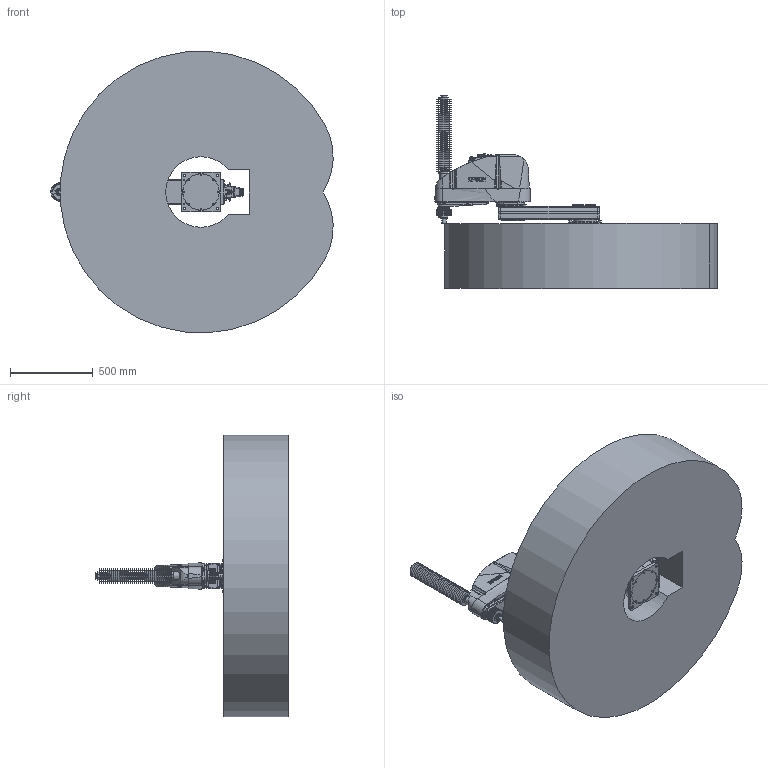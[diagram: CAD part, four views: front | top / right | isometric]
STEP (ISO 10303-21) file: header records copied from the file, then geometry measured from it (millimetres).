
FILE_DESCRIPTION( ( 'STEP AP214' ), '1' );
FILE_NAME( 'C:/Users/9607552/Desktop/GX20-B854C_straight.stp', '2023-08-01T09:29:11', ( '' ), ( '' ), ' ', 'PARTsolutions', ' ' );
FILE_SCHEMA( ( 'AUTOMOTIVE_DESIGN { 1 0 10303 214 1 1 1 1 }' ) );
Length unit declared in the file: millimetre
Products named in the file (7): GX20-B854CS-W; _Base c; _Straight-B; _J1 Arm GX10-450; _J2 Arm GX10-c; _J3 Arm GX10-c (4); _GX10_20B-23_4
Assembly tree (6 placements, depth 2):
  GX20-B854CS-W
    _Base c
    _Straight-B
    _J1 Arm GX10-450
    _J2 Arm GX10-c
    _J3 Arm GX10-c (4)
    _GX10_20B-23_4
Bounding box: 1702.55 x 1164 x 1697.41 mm (x, y, z)
Volume: 850747975.4 mm3; surface area: 8941367.4 mm2
Topology: 6 solids, 6 shells, 2547 faces, 6230 edges, 4020 vertices
Faces by surface type: plane 1281, cylinder 730, cone 428, torus 70, bspline 37, sphere 1
Full cylindrical faces by diameter (mm): 1.18 x55, 2.5 x2, 3 x32, 3.242 x10, 3.3 x9, 4 x2, 4.2 x2, 4.8 x4, 5.1 x4, 5.34 x4, 5.5 x12, 6 x3, 6.2 x2, 6.647 x2, 7 x27, 7.5 x1, 8 x4, 8.5 x2, 9 x4, 10 x32, 10.5 x3, 11 x14, 12 x7, 12.25 x1, 13 x2, 14 x8, 14.25 x1, 16 x7, 18 x1, 20.4 x1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
Entity records: 95600 total; most frequent: CARTESIAN_POINT 17954, DIRECTION 11892, ORIENTED_EDGE 10852, EDGE_CURVE 5426, AXIS2_PLACEMENT_3D 4575, VERTEX_POINT 3917, EDGE_LOOP 3602, FACE_OUTER_BOUND 2893
